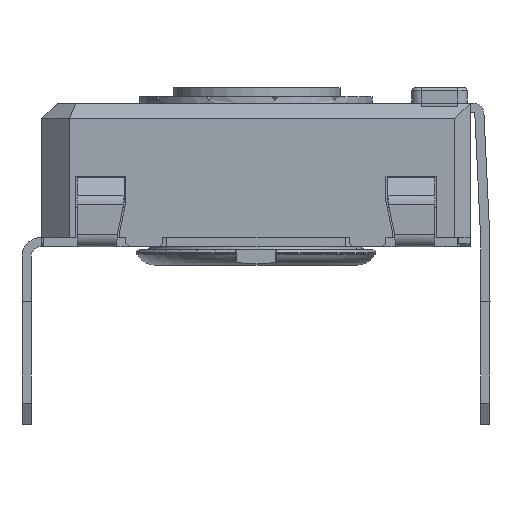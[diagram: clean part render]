
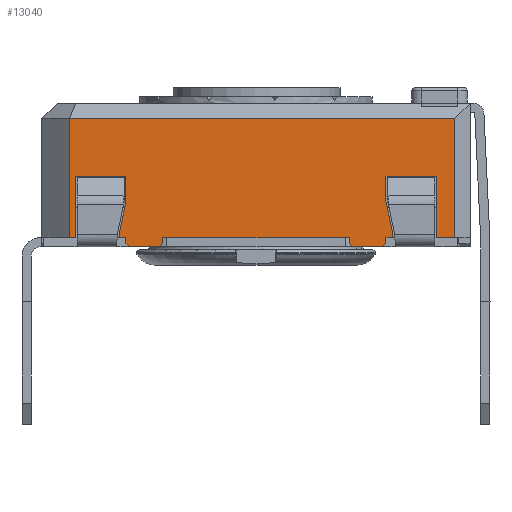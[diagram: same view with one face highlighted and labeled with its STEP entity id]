
A CAD part, left-side view. The second image highlights one B-rep face of the part: STEP entity #13040.
In plain terms, the highlighted planar face has unit normal (-1, 0, 0).
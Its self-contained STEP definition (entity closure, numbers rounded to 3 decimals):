
#1015=FACE_OUTER_BOUND('',#1695,.T.);
#1695=EDGE_LOOP('',(#10399,#10400,#10401,#10402,#10403,#10404,#10405,#10406,
#10407,#10408,#10409,#10410,#10411,#10412,#10413,#10414,#10415,#10416,#10417,
#10418,#10419,#10420,#10421,#10422,#10423,#10424,#10425,#10426));
#2695=LINE('',#19961,#4194);
#2701=LINE('',#19973,#4200);
#2704=LINE('',#19980,#4203);
#2709=LINE('',#19989,#4208);
#2729=LINE('',#20030,#4228);
#2743=LINE('',#20056,#4242);
#2747=LINE('',#20063,#4246);
#2762=LINE('',#20092,#4261);
#2765=LINE('',#20098,#4264);
#2770=LINE('',#20108,#4269);
#2773=LINE('',#20114,#4272);
#2776=LINE('',#20120,#4275);
#2794=LINE('',#20155,#4293);
#2806=LINE('',#20177,#4305);
#2809=LINE('',#20183,#4308);
#2846=LINE('',#20317,#4345);
#2854=LINE('',#20331,#4353);
#2863=LINE('',#20349,#4362);
#2868=LINE('',#20359,#4367);
#2870=LINE('',#20362,#4369);
#2995=LINE('',#20673,#4494);
#2997=LINE('',#20678,#4496);
#3000=LINE('',#20682,#4499);
#3002=LINE('',#20686,#4501);
#3005=LINE('',#20694,#4504);
#3006=LINE('',#20696,#4505);
#3007=LINE('',#20697,#4506);
#3008=LINE('',#20698,#4507);
#4194=VECTOR('',#15970,10.);
#4200=VECTOR('',#15978,10.);
#4203=VECTOR('',#15983,10.);
#4208=VECTOR('',#15990,10.);
#4228=VECTOR('',#16024,10.);
#4242=VECTOR('',#16038,10.);
#4246=VECTOR('',#16042,10.);
#4261=VECTOR('',#16069,10.);
#4264=VECTOR('',#16074,10.);
#4269=VECTOR('',#16081,10.);
#4272=VECTOR('',#16086,10.);
#4275=VECTOR('',#16091,10.);
#4293=VECTOR('',#16111,10.);
#4305=VECTOR('',#16125,10.);
#4308=VECTOR('',#16130,10.);
#4345=VECTOR('',#16211,10.);
#4353=VECTOR('',#16221,10.);
#4362=VECTOR('',#16232,10.);
#4367=VECTOR('',#16239,10.);
#4369=VECTOR('',#16243,10.);
#4494=VECTOR('',#16534,10.);
#4496=VECTOR('',#16538,10.);
#4499=VECTOR('',#16543,10.);
#4501=VECTOR('',#16549,10.);
#4504=VECTOR('',#16560,10.);
#4505=VECTOR('',#16561,10.);
#4506=VECTOR('',#16562,10.);
#4507=VECTOR('',#16563,10.);
#5600=VERTEX_POINT('',#19958);
#5601=VERTEX_POINT('',#19960);
#5605=VERTEX_POINT('',#19970);
#5607=VERTEX_POINT('',#19976);
#5609=VERTEX_POINT('',#19979);
#5612=VERTEX_POINT('',#19987);
#5637=VERTEX_POINT('',#20053);
#5638=VERTEX_POINT('',#20055);
#5640=VERTEX_POINT('',#20060);
#5641=VERTEX_POINT('',#20062);
#5648=VERTEX_POINT('',#20089);
#5650=VERTEX_POINT('',#20095);
#5654=VERTEX_POINT('',#20105);
#5656=VERTEX_POINT('',#20111);
#5659=VERTEX_POINT('',#20118);
#5675=VERTEX_POINT('',#20153);
#5684=VERTEX_POINT('',#20175);
#5686=VERTEX_POINT('',#20181);
#5713=VERTEX_POINT('',#20315);
#5718=VERTEX_POINT('',#20329);
#5725=VERTEX_POINT('',#20346);
#5729=VERTEX_POINT('',#20356);
#5803=VERTEX_POINT('',#20670);
#5804=VERTEX_POINT('',#20672);
#5805=VERTEX_POINT('',#20676);
#5806=VERTEX_POINT('',#20677);
#5807=VERTEX_POINT('',#20693);
#5808=VERTEX_POINT('',#20695);
#7119=EDGE_CURVE('',#5601,#5600,#2695,.T.);
#7125=EDGE_CURVE('',#5600,#5605,#2701,.T.);
#7128=EDGE_CURVE('',#5609,#5607,#2704,.T.);
#7133=EDGE_CURVE('',#5612,#5607,#2709,.T.);
#7153=EDGE_CURVE('',#5605,#5609,#2729,.T.);
#7167=EDGE_CURVE('',#5638,#5637,#2743,.T.);
#7171=EDGE_CURVE('',#5641,#5640,#2747,.T.);
#7187=EDGE_CURVE('',#5637,#5648,#2762,.T.);
#7190=EDGE_CURVE('',#5648,#5650,#2765,.T.);
#7195=EDGE_CURVE('',#5650,#5654,#2770,.T.);
#7198=EDGE_CURVE('',#5654,#5656,#2773,.T.);
#7201=EDGE_CURVE('',#5656,#5659,#2776,.T.);
#7219=EDGE_CURVE('',#5659,#5675,#2794,.T.);
#7231=EDGE_CURVE('',#5684,#5675,#2806,.T.);
#7234=EDGE_CURVE('',#5686,#5684,#2809,.T.);
#7283=EDGE_CURVE('',#5713,#5686,#2846,.T.);
#7291=EDGE_CURVE('',#5713,#5718,#2854,.T.);
#7300=EDGE_CURVE('',#5718,#5725,#2863,.T.);
#7305=EDGE_CURVE('',#5725,#5729,#2868,.T.);
#7307=EDGE_CURVE('',#5729,#5601,#2870,.T.);
#7448=EDGE_CURVE('',#5803,#5804,#2995,.T.);
#7450=EDGE_CURVE('',#5805,#5806,#2997,.T.);
#7453=EDGE_CURVE('',#5638,#5803,#3000,.T.);
#7455=EDGE_CURVE('',#5640,#5806,#3002,.T.);
#7458=EDGE_CURVE('',#5612,#5807,#3005,.T.);
#7459=EDGE_CURVE('',#5808,#5807,#3006,.T.);
#7460=EDGE_CURVE('',#5641,#5808,#3007,.T.);
#7461=EDGE_CURVE('',#5805,#5804,#3008,.T.);
#10399=ORIENTED_EDGE('',*,*,#7125,.T.);
#10400=ORIENTED_EDGE('',*,*,#7153,.T.);
#10401=ORIENTED_EDGE('',*,*,#7128,.T.);
#10402=ORIENTED_EDGE('',*,*,#7133,.F.);
#10403=ORIENTED_EDGE('',*,*,#7458,.T.);
#10404=ORIENTED_EDGE('',*,*,#7459,.F.);
#10405=ORIENTED_EDGE('',*,*,#7460,.F.);
#10406=ORIENTED_EDGE('',*,*,#7171,.T.);
#10407=ORIENTED_EDGE('',*,*,#7455,.T.);
#10408=ORIENTED_EDGE('',*,*,#7450,.F.);
#10409=ORIENTED_EDGE('',*,*,#7461,.T.);
#10410=ORIENTED_EDGE('',*,*,#7448,.F.);
#10411=ORIENTED_EDGE('',*,*,#7453,.F.);
#10412=ORIENTED_EDGE('',*,*,#7167,.T.);
#10413=ORIENTED_EDGE('',*,*,#7187,.T.);
#10414=ORIENTED_EDGE('',*,*,#7190,.T.);
#10415=ORIENTED_EDGE('',*,*,#7195,.T.);
#10416=ORIENTED_EDGE('',*,*,#7198,.T.);
#10417=ORIENTED_EDGE('',*,*,#7201,.T.);
#10418=ORIENTED_EDGE('',*,*,#7219,.T.);
#10419=ORIENTED_EDGE('',*,*,#7231,.F.);
#10420=ORIENTED_EDGE('',*,*,#7234,.F.);
#10421=ORIENTED_EDGE('',*,*,#7283,.F.);
#10422=ORIENTED_EDGE('',*,*,#7291,.T.);
#10423=ORIENTED_EDGE('',*,*,#7300,.T.);
#10424=ORIENTED_EDGE('',*,*,#7305,.T.);
#10425=ORIENTED_EDGE('',*,*,#7307,.T.);
#10426=ORIENTED_EDGE('',*,*,#7119,.T.);
#12221=PLANE('',#13915);
#13040=ADVANCED_FACE('',(#1015),#12221,.T.);
#13915=AXIS2_PLACEMENT_3D('',#20692,#16558,#16559);
#15970=DIRECTION('',(0.,0.208,-0.978));
#15978=DIRECTION('',(0.,0.,-1.));
#15983=DIRECTION('',(0.,0.,-1.));
#15990=DIRECTION('',(0.,0.707,0.707));
#16024=DIRECTION('',(0.,-1.,0.));
#16038=DIRECTION('',(0.,-1.,0.));
#16042=DIRECTION('',(0.,-1.,0.));
#16069=DIRECTION('',(0.,0.,1.));
#16074=DIRECTION('',(0.,0.208,0.978));
#16081=DIRECTION('',(0.,0.,1.));
#16086=DIRECTION('',(0.,-1.,0.));
#16091=DIRECTION('',(0.,0.,-1.));
#16111=DIRECTION('',(0.,-1.,0.));
#16125=DIRECTION('',(0.,0.,-1.));
#16130=DIRECTION('',(0.,-1.,0.));
#16211=DIRECTION('',(0.,0.,1.));
#16221=DIRECTION('',(0.,-1.,0.));
#16232=DIRECTION('',(0.,0.,1.));
#16239=DIRECTION('',(0.,-1.,0.));
#16243=DIRECTION('',(0.,0.,-1.));
#16534=DIRECTION('',(0.,0.707,-0.707));
#16538=DIRECTION('',(0.,0.707,0.707));
#16543=DIRECTION('',(0.,0.,-1.));
#16549=DIRECTION('',(0.,0.,-1.));
#16558=DIRECTION('center_axis',(-1.,0.,0.));
#16559=DIRECTION('ref_axis',(0.,0.,1.));
#16560=DIRECTION('',(0.,-1.,0.));
#16561=DIRECTION('',(0.,0.707,-0.707));
#16562=DIRECTION('',(0.,0.,-1.));
#16563=DIRECTION('',(0.,-1.,0.));
#19958=CARTESIAN_POINT('',(-14.467,1.552,0.235));
#19960=CARTESIAN_POINT('',(-14.467,1.352,1.176));
#19961=CARTESIAN_POINT('',(-14.467,1.228,1.757));
#19970=CARTESIAN_POINT('',(-14.467,1.552,0.));
#19973=CARTESIAN_POINT('',(-14.467,1.552,0.));
#19976=CARTESIAN_POINT('',(-14.467,1.352,-0.2));
#19979=CARTESIAN_POINT('',(-14.467,1.352,0.));
#19980=CARTESIAN_POINT('',(-14.467,1.352,0.));
#19987=CARTESIAN_POINT('',(-14.467,1.252,-0.3));
#19989=CARTESIAN_POINT('',(-14.467,-1.436,-2.988));
#20030=CARTESIAN_POINT('',(-14.467,4.102,0.));
#20053=CARTESIAN_POINT('',(-14.467,-7.348,0.));
#20055=CARTESIAN_POINT('',(-14.467,-7.148,0.));
#20056=CARTESIAN_POINT('',(-14.467,4.102,0.));
#20060=CARTESIAN_POINT('',(-14.467,-5.948,0.));
#20062=CARTESIAN_POINT('',(-14.467,0.152,0.));
#20063=CARTESIAN_POINT('',(-14.467,4.102,0.));
#20089=CARTESIAN_POINT('',(-14.467,-7.348,0.235));
#20092=CARTESIAN_POINT('',(-14.467,-7.348,0.118));
#20095=CARTESIAN_POINT('',(-14.467,-7.148,1.176));
#20098=CARTESIAN_POINT('',(-14.467,-7.453,-0.254));
#20105=CARTESIAN_POINT('',(-14.467,-7.148,2.));
#20108=CARTESIAN_POINT('',(-14.467,-7.148,0.588));
#20111=CARTESIAN_POINT('',(-14.467,-8.798,2.));
#20114=CARTESIAN_POINT('',(-14.467,-8.523,2.));
#20118=CARTESIAN_POINT('',(-14.467,-8.798,0.));
#20120=CARTESIAN_POINT('',(-14.467,-8.798,0.));
#20153=CARTESIAN_POINT('',(-14.467,-9.398,0.));
#20155=CARTESIAN_POINT('',(-14.467,-9.595,0.));
#20175=CARTESIAN_POINT('',(-14.467,-9.398,3.9));
#20177=CARTESIAN_POINT('',(-14.467,-9.398,0.));
#20181=CARTESIAN_POINT('',(-14.467,3.202,3.9));
#20183=CARTESIAN_POINT('',(-14.467,-6.398,3.9));
#20315=CARTESIAN_POINT('',(-14.467,3.202,0.));
#20317=CARTESIAN_POINT('',(-14.467,3.202,0.));
#20329=CARTESIAN_POINT('',(-14.467,3.002,0.));
#20331=CARTESIAN_POINT('',(-14.467,-2.985,0.));
#20346=CARTESIAN_POINT('',(-14.467,3.002,2.));
#20349=CARTESIAN_POINT('',(-14.467,3.002,0.));
#20356=CARTESIAN_POINT('',(-14.467,1.352,2.));
#20359=CARTESIAN_POINT('',(-14.467,-3.448,2.));
#20362=CARTESIAN_POINT('',(-14.467,1.352,1.));
#20670=CARTESIAN_POINT('',(-14.467,-7.148,-0.2));
#20672=CARTESIAN_POINT('',(-14.467,-7.048,-0.3));
#20673=CARTESIAN_POINT('',(-14.467,-7.861,0.513));
#20676=CARTESIAN_POINT('',(-14.467,-6.048,-0.3));
#20677=CARTESIAN_POINT('',(-14.467,-5.948,-0.2));
#20678=CARTESIAN_POINT('',(-14.467,-6.911,-1.163));
#20682=CARTESIAN_POINT('',(-14.467,-7.148,0.));
#20686=CARTESIAN_POINT('',(-14.467,-5.948,0.));
#20692=CARTESIAN_POINT('Origin',(-14.467,-9.898,0.));
#20693=CARTESIAN_POINT('',(-14.467,0.252,-0.3));
#20694=CARTESIAN_POINT('',(-14.467,0.152,-0.3));
#20695=CARTESIAN_POINT('',(-14.467,0.152,-0.2));
#20696=CARTESIAN_POINT('',(-14.467,-2.386,2.338));
#20697=CARTESIAN_POINT('',(-14.467,0.152,0.));
#20698=CARTESIAN_POINT('',(-14.467,-7.148,-0.3));
